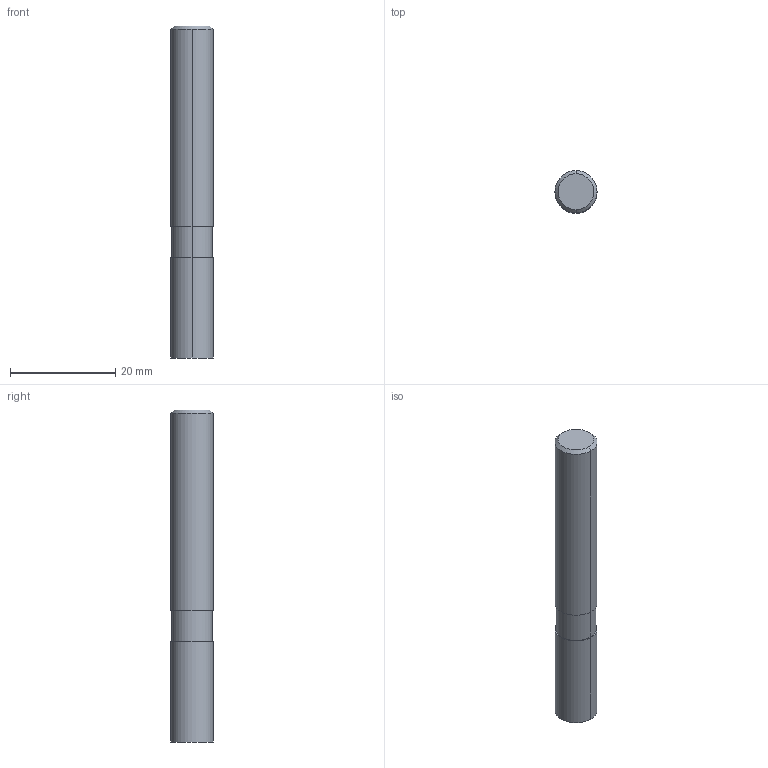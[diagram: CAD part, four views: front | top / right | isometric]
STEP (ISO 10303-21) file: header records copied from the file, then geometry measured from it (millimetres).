
FILE_DESCRIPTION((''),'2;1');
FILE_NAME('DIN4003_82_HEURO','2016-04-11T',('automc'),(''),'PRO/ENGINEER BY PARAMETRIC TECHNOLOGY CORPORATION, 2015280','PRO/ENGINEER BY PARAMETRIC TECHNOLOGY CORPORATION, 2015280','');
FILE_SCHEMA(('AUTOMOTIVE_DESIGN { 1 0 10303 214 1 1 1 1 }'));
Length unit declared in the file: millimetre
Products named in the file (1): DIN4003_82_HEURO
Bounding box: 8 x 8 x 63 mm (x, y, z)
Volume: 3140.3 mm3; surface area: 1676.3 mm2
Topology: 1 solids, 1 shells, 12 faces, 24 edges, 17 vertices
Faces by surface type: bspline 12
Entity records: 704 total; most frequent: CARTESIAN_POINT 219, DIRECTION 68, ORIENTED_EDGE 44, AXIS2_PLACEMENT_3D 26, PRESENTATION_STYLE_ASSIGNMENT 23, STYLED_ITEM 23, EDGE_CURVE 22, VECTOR 16
